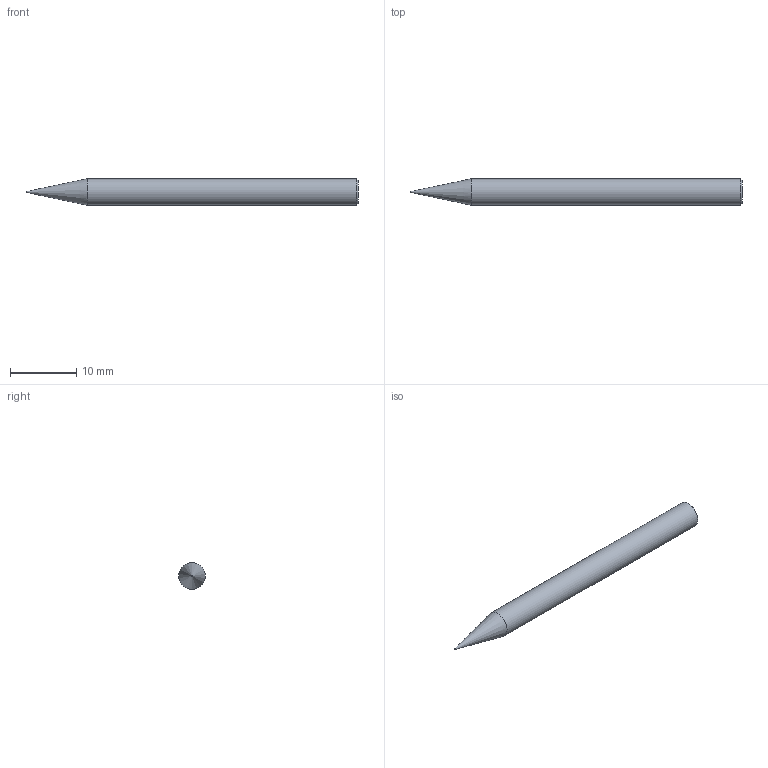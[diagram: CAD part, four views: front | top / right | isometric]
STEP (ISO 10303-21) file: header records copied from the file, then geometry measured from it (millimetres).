
FILE_DESCRIPTION(/* description */ (''),/* implementation_level */ '2;1');
FILE_NAME(/* name */ 'HSXB20015 0450.stp',/* time_stamp */ '2026-08-03T10:33:50+08:00',/* author */ (''),/* organization */ (''),/* preprocessor_version */ 'ST-DEVELOPER v16',/* originating_system */ 'SIEMENS PLM Software NX 10.0',/* authorisation */ '');
FILE_SCHEMA (('CONFIG_CONTROL_DESIGN'));
Length unit declared in the file: millimetre
Products named in the file (1): HSXB20015 0450_dxf
Bounding box: 50 x 4 x 4 mm (x, y, z)
Volume: 551.8 mm3; surface area: 584.1 mm2
Topology: 1 solids, 1 shells, 6 faces, 12 edges, 7 vertices
Faces by surface type: cylinder 2, cone 2, plane 1, sphere 1
Full cylindrical faces by diameter (mm): 0.15 x1, 4 x1
Entity records: 198 total; most frequent: DIRECTION 24, CARTESIAN_POINT 17, AXIS2_PLACEMENT_3D 12, EDGE_LOOP 10, ORIENTED_EDGE 10, FACE_BOUND 8, PERSON_AND_ORGANIZATION 7, ORGANIZATION 7
